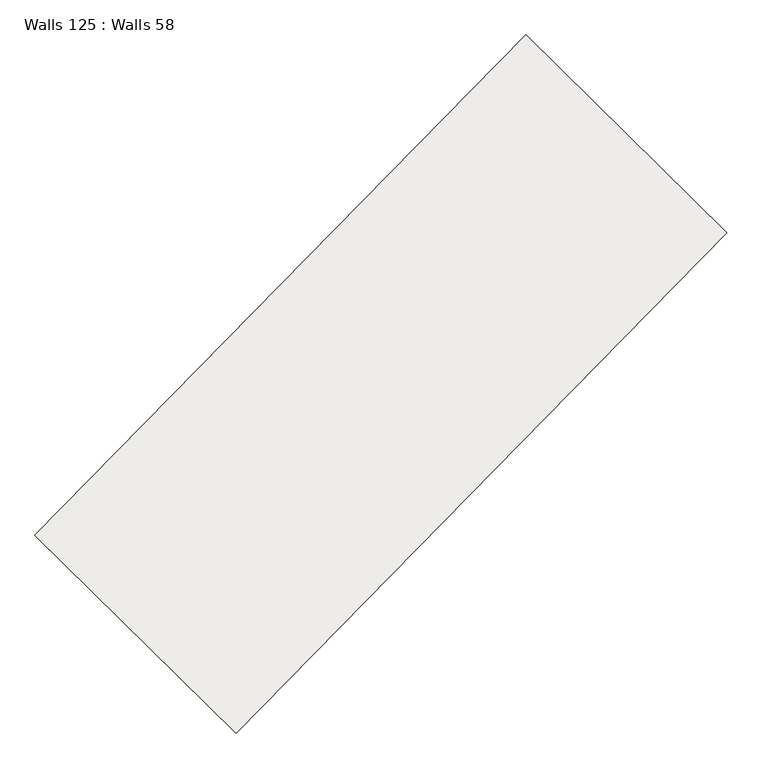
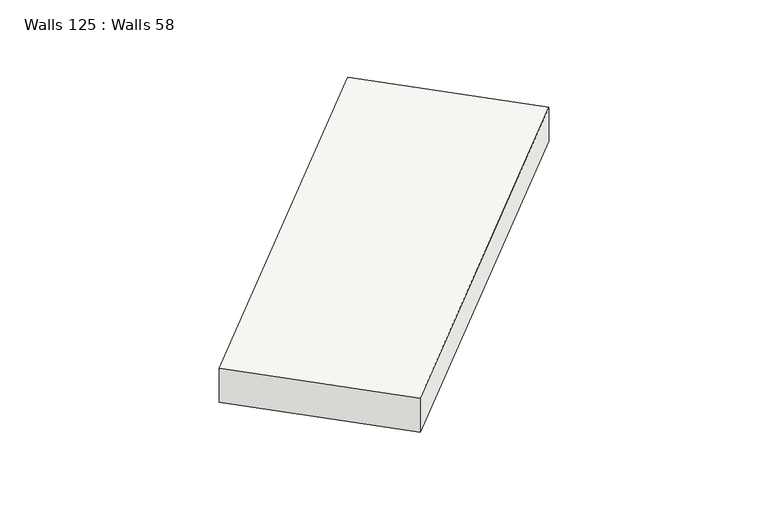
"""IFC4 building model written with IfcOpenShell, lengths in millimetres: slab geometry, Walls 125 : Walls 58."""

from ifc_helpers import new_model, si_unit, frame, origin, place, context, project, spatial, polyline, outline, extrude, source, transform, mapped, element, save


def walls_125_walls_58_f0b9c7ef(model_context):
    return source(origin(), model_context, "Body", "SweptSolid", [
        extrude(outline(polyline([(-350.0, 0.0), (350.0, 0.0), (260.0, -8700.0000009), (-440.0, -8700.0000009), (-350.0, 0.0)])), frame((-30489.6041123, -190271.6309666, 638000.0), z_axis=(-0.7137361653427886, 0.7004146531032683, 0.0), x_axis=(0.0, 0.0, 1.0)), (0.0, 0.0, 1.0), 3499.999995),
    ])


if __name__ == "__main__":
    model = new_model("IFC4")
    model_context = context("Model", 3, world=origin())
    ifc_project = project(units=[si_unit("LENGTHUNIT", "METRE", prefix="MILLI")], contexts=[model_context])
    site = spatial("IfcSite", under=ifc_project)
    building = spatial("IfcBuilding", under=site)
    placement = place(None, origin())
    walls_125_walls_58_shape = walls_125_walls_58_f0b9c7ef(model_context)
    element("IfcSlab", 1, ObjectType="Walls 125 : Walls 58", at=placement, inside=building, context=model_context, shape_type="MappedRepresentation", body=[
        mapped(walls_125_walls_58_shape, transform((0.0, 0.0, 0.0), x_axis=(1.0, 0.0, 0.0), y_axis=(0.0, 1.0, 0.0), z_axis=(0.0, 0.0, 1.0))),
    ])
    save(model, "model.ifc")
